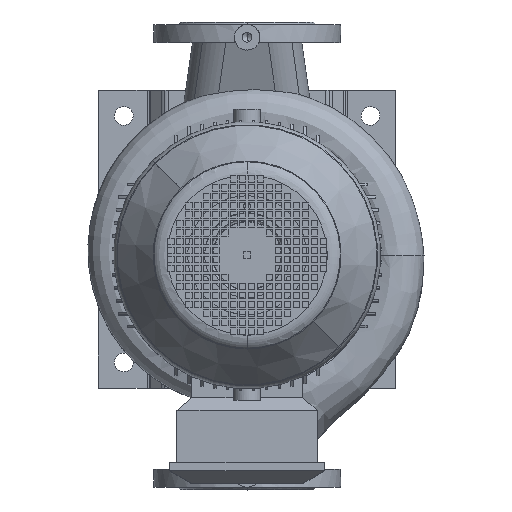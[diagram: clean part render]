
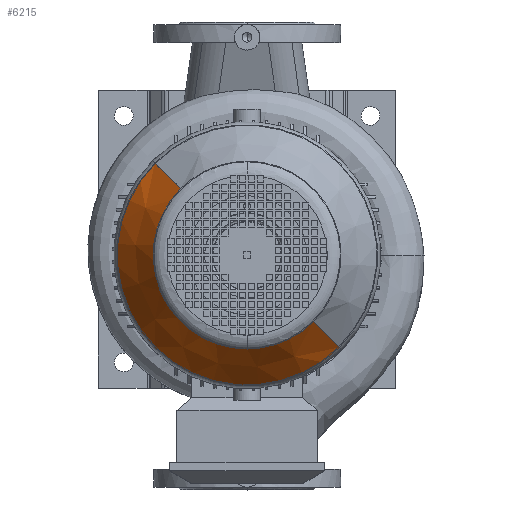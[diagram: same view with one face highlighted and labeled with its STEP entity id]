
A CAD part, top view. The second image highlights one B-rep face of the part: STEP entity #6215.
In plain terms, the highlighted conical face has half-angle 34.992 degrees and reference radius 104.5 mm.
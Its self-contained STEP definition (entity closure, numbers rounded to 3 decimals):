
#6215=ADVANCED_FACE('',(#13161),#13162,.T.);
#13161=FACE_OUTER_BOUND('',#23260,.T.);
#13162=CONICAL_SURFACE('',#23261,104.5,0.611);
#23260=EDGE_LOOP('',(#40193,#40194,#40195,#40196,#40197));
#23261=AXIS2_PLACEMENT_3D('',#40198,#40199,#40200);
#40193=ORIENTED_EDGE('',*,*,#45360,.T.);
#40194=ORIENTED_EDGE('',*,*,#48768,.F.);
#40195=ORIENTED_EDGE('',*,*,#45470,.F.);
#40196=ORIENTED_EDGE('',*,*,#45362,.T.);
#40197=ORIENTED_EDGE('',*,*,#48802,.F.);
#40198=CARTESIAN_POINT('',(0.,0.,163.0));
#40199=DIRECTION('',(-0.0,-0.0,-1.0));
#40200=DIRECTION('',(-1.0,0.,0.0));
#45360=EDGE_CURVE('',#52832,#52833,#52834,.T.);
#45362=EDGE_CURVE('',#52837,#52835,#52838,.T.);
#45470=EDGE_CURVE('',#52837,#52980,#53029,.T.);
#48768=EDGE_CURVE('',#52980,#52833,#57971,.T.);
#48802=EDGE_CURVE('',#52832,#52835,#58007,.T.);
#52832=VERTEX_POINT('',#68308);
#52833=VERTEX_POINT('',#68309);
#52834=LINE('',#68310,#68311);
#52835=VERTEX_POINT('',#68312);
#52837=VERTEX_POINT('',#68314);
#52838=LINE('',#68315,#68316);
#52980=VERTEX_POINT('',#68842);
#53029=CIRCLE('',#68991,110.472);
#57971=CIRCLE('',#76585,110.472);
#58007=CIRCLE('',#76681,153.385);
#68308=CARTESIAN_POINT('',(-153.385,0.,93.165));
#68309=CARTESIAN_POINT('',(-110.472,0.,154.469));
#68310=CARTESIAN_POINT('',(-104.5,0.,163.0));
#68311=VECTOR('',#82154,1.0);
#68312=CARTESIAN_POINT('',(153.385,0.0,93.165));
#68314=CARTESIAN_POINT('',(110.472,0.,154.469));
#68315=CARTESIAN_POINT('',(104.5,0.,163.0));
#68316=VECTOR('',#82158,1.0);
#68842=CARTESIAN_POINT('',(-78.115,78.115,154.469));
#68991=AXIS2_PLACEMENT_3D('',#82253,#82254,#82255);
#76585=AXIS2_PLACEMENT_3D('',#84700,#84701,#84702);
#76681=AXIS2_PLACEMENT_3D('',#84748,#84749,#84750);
#82154=DIRECTION('',(0.573,0.,0.819));
#82158=DIRECTION('',(0.573,0.,-0.819));
#82253=CARTESIAN_POINT('',(0.,0.,154.469));
#82254=DIRECTION('',(0.0,0.0,1.0));
#82255=DIRECTION('',(-1.0,0.,0.0));
#84700=CARTESIAN_POINT('',(0.,0.,154.469));
#84701=DIRECTION('',(0.0,0.0,1.0));
#84702=DIRECTION('',(-1.0,0.,0.0));
#84748=CARTESIAN_POINT('',(0.,0.,93.165));
#84749=DIRECTION('',(0.0,-0.0,-1.0));
#84750=DIRECTION('',(-1.0,0.,0.0));
